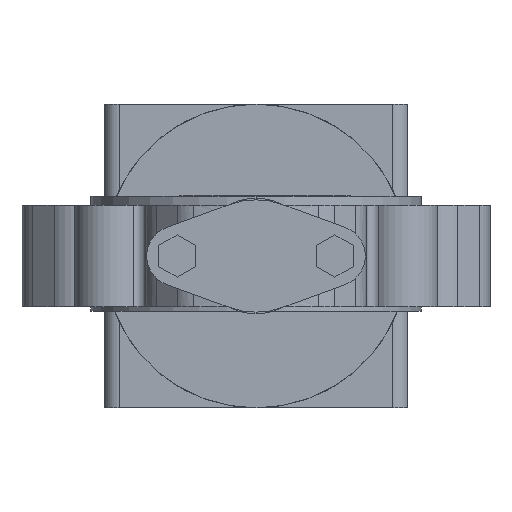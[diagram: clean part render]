
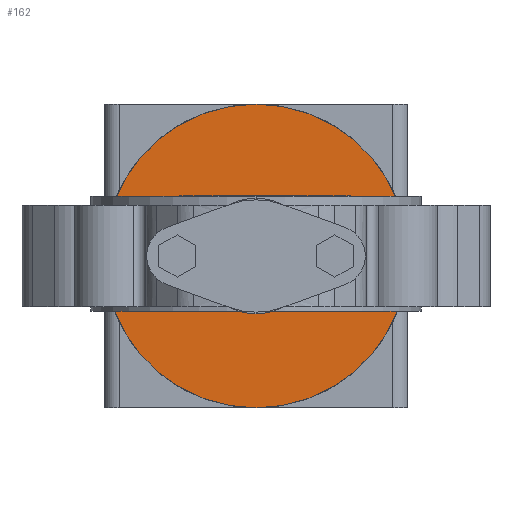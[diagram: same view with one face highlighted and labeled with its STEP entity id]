
A CAD part, front view. The second image highlights one B-rep face of the part: STEP entity #162.
In plain terms, the highlighted planar face has unit normal (0, -1, 0).
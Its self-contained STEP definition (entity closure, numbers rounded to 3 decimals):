
#162 = ADVANCED_FACE( '', ( #539, #540 ), #541, .T. );
#539 = FACE_OUTER_BOUND( '', #1135, .T. );
#540 = FACE_BOUND( '', #1136, .T. );
#541 = PLANE( '', #1137 );
#1135 = EDGE_LOOP( '', ( #2241, #2242 ) );
#1136 = EDGE_LOOP( '', ( #2243, #2244, #2245, #2246 ) );
#1137 = AXIS2_PLACEMENT_3D( '', #2247, #2248, #2249 );
#2241 = ORIENTED_EDGE( '', *, *, #4017, .F. );
#2242 = ORIENTED_EDGE( '', *, *, #4182, .F. );
#2243 = ORIENTED_EDGE( '', *, *, #4183, .T. );
#2244 = ORIENTED_EDGE( '', *, *, #4184, .T. );
#2245 = ORIENTED_EDGE( '', *, *, #4185, .T. );
#2246 = ORIENTED_EDGE( '', *, *, #4186, .T. );
#2247 = CARTESIAN_POINT( '', ( 59., 223., 0. ) );
#2248 = DIRECTION( '', ( 0., -1., 0. ) );
#2249 = DIRECTION( '', ( -1., 0., 0. ) );
#4017 = EDGE_CURVE( '', #4906, #4909, #4910, .T. );
#4182 = EDGE_CURVE( '', #4909, #4906, #5178, .T. );
#4183 = EDGE_CURVE( '', #5179, #5180, #5181, .T. );
#4184 = EDGE_CURVE( '', #5180, #5182, #5183, .T. );
#4185 = EDGE_CURVE( '', #5182, #5184, #5185, .T. );
#4186 = EDGE_CURVE( '', #5184, #5179, #5186, .T. );
#4906 = VERTEX_POINT( '', #6705 );
#4909 = VERTEX_POINT( '', #6709 );
#4910 = CIRCLE( '', #6710, 100. );
#5178 = CIRCLE( '', #7471, 100. );
#5179 = VERTEX_POINT( '', #7472 );
#5180 = VERTEX_POINT( '', #7473 );
#5181 = LINE( '', #7474, #7475 );
#5182 = VERTEX_POINT( '', #7476 );
#5183 = LINE( '', #7477, #7478 );
#5184 = VERTEX_POINT( '', #7479 );
#5185 = LINE( '', #7480, #7481 );
#5186 = LINE( '', #7482, #7483 );
#6705 = CARTESIAN_POINT( '', ( 100., 223., 0. ) );
#6709 = CARTESIAN_POINT( '', ( -100., 223., 0. ) );
#6710 = AXIS2_PLACEMENT_3D( '', #8773, #8774, #8775 );
#7471 = AXIS2_PLACEMENT_3D( '', #9078, #9079, #9080 );
#7472 = CARTESIAN_POINT( '', ( -49., 223., -33.5 ) );
#7473 = CARTESIAN_POINT( '', ( -49., 223., 33.5 ) );
#7474 = CARTESIAN_POINT( '', ( -49., 223., -33.5 ) );
#7475 = VECTOR( '', #9081, 1. );
#7476 = CARTESIAN_POINT( '', ( 49., 223., 33.5 ) );
#7477 = CARTESIAN_POINT( '', ( -49., 223., 33.5 ) );
#7478 = VECTOR( '', #9082, 1. );
#7479 = CARTESIAN_POINT( '', ( 49., 223., -33.5 ) );
#7480 = CARTESIAN_POINT( '', ( 49., 223., 33.5 ) );
#7481 = VECTOR( '', #9083, 1. );
#7482 = CARTESIAN_POINT( '', ( 49., 223., -33.5 ) );
#7483 = VECTOR( '', #9084, 1. );
#8773 = CARTESIAN_POINT( '', ( 0., 223., 0. ) );
#8774 = DIRECTION( '', ( 0., 1., 0. ) );
#8775 = DIRECTION( '', ( 1., 0., 0. ) );
#9078 = CARTESIAN_POINT( '', ( 0., 223., 0. ) );
#9079 = DIRECTION( '', ( 0., 1., 0. ) );
#9080 = DIRECTION( '', ( 1., 0., 0. ) );
#9081 = DIRECTION( '', ( 0., 0., 1. ) );
#9082 = DIRECTION( '', ( 1., 0., 0. ) );
#9083 = DIRECTION( '', ( 0., 0., -1. ) );
#9084 = DIRECTION( '', ( -1., 0., 0. ) );
